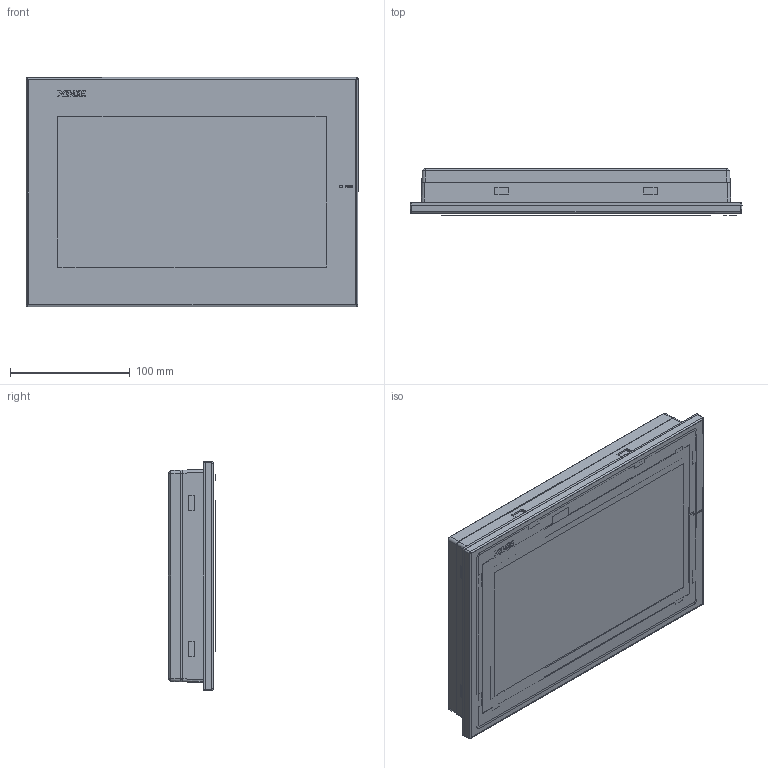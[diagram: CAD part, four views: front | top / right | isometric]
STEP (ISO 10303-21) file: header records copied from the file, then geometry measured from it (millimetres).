
FILE_DESCRIPTION(/* description */ (''),/* implementation_level */ '2;1');
FILE_NAME(/* name */ 'TS5-1000',/* time_stamp */ '2023-04-10T17:23:45+08:00',/* author */ (''),/* organization */ (''),/* preprocessor_version */ 'ST-DEVELOPER v16.5',/* originating_system */ '',/* authorisation */ '');
FILE_SCHEMA (('AUTOMOTIVE_DESIGN'));
Products named in the file (2): Document; 图块 01
Assembly tree (1 placements, depth 2):
  Document
    图块 01
Bounding box: 277 x 39.87 x 191.68 mm (x, y, z)
Volume: 23852.6 mm3; surface area: 412605.5 mm2
Topology: 36 solids, 52 shells, 5210 faces, 14964 edges, 9943 vertices
Faces by surface type: plane 4182, bspline 1028
Entity records: 171933 total; most frequent: CARTESIAN_POINT 74249, ORIENTED_EDGE 29859, EDGE_CURVE 14963, B_SPLINE_CURVE_WITH_KNOTS 13802, VERTEX_POINT 9951, EDGE_LOOP 5427, ADVANCED_FACE 5210, FACE_OUTER_BOUND 5210
